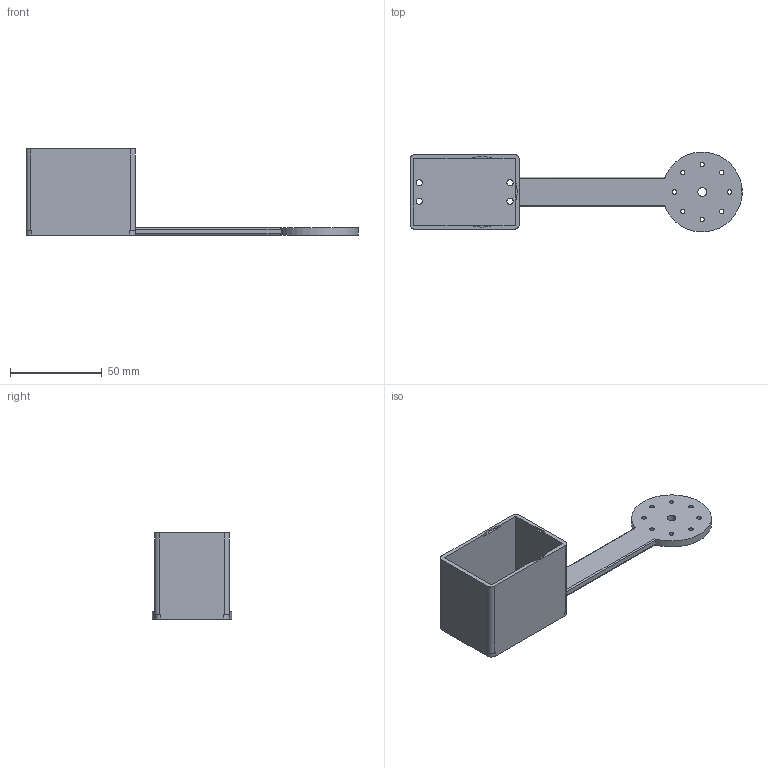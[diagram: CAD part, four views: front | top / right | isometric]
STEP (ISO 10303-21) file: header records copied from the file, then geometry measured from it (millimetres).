
FILE_DESCRIPTION(('Open CASCADE Model'),'2;1');
FILE_NAME('Open CASCADE Shape Model','2026-11-19T06:41:56',('Author'),( 'Open CASCADE'),'Open CASCADE STEP processor 8.0','Open CASCADE 8.0' ,'Unknown');
FILE_SCHEMA(('AUTOMOTIVE_DESIGN { 1 0 10303 214 1 1 1 1 }'));
Length unit declared in the file: millimetre
Products named in the file (1): Open CASCADE STEP translator 8.0 38
Bounding box: 180.82 x 43.46 x 46.9 mm (x, y, z)
Volume: 37101.6 mm3; surface area: 28445.5 mm2
Topology: 1 solids, 1 shells, 56 faces, 156 edges, 104 vertices
Faces by surface type: cylinder 30, plane 26
Full cylindrical faces by diameter (mm): 2.4 x8, 3.4 x4, 4.8 x1, 36.1 x1
Entity records: 4004 total; most frequent: CARTESIAN_POINT 892, DIRECTION 564, ORIENTED_EDGE 312, PCURVE 312, DEFINITIONAL_REPRESENTATION 312, LINE 303, VECTOR 303, EDGE_CURVE 156
